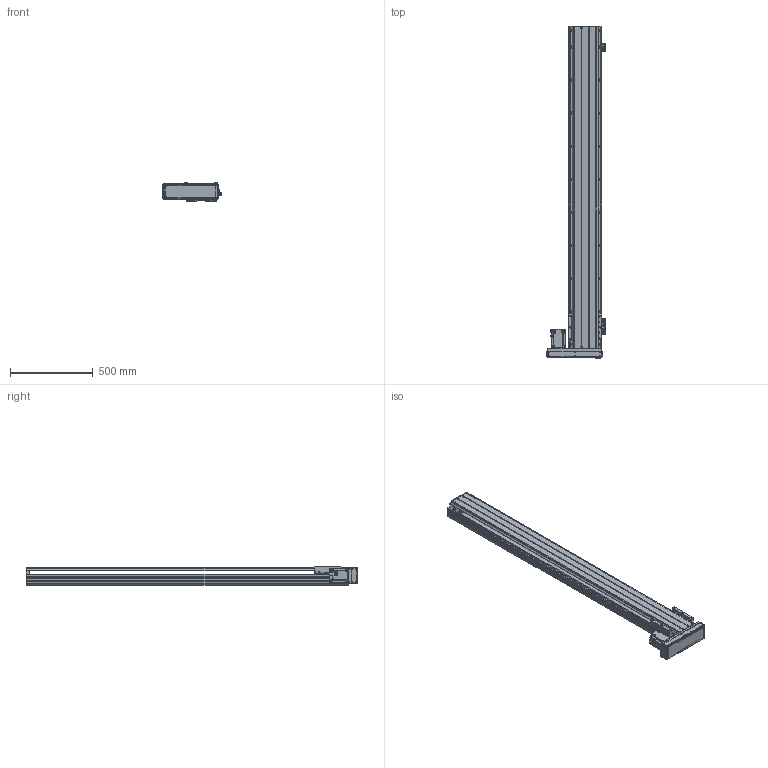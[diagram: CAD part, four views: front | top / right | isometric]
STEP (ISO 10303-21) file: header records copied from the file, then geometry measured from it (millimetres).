
FILE_DESCRIPTION(/* description */ ('MANUFACTURE'),/* implementation_level */ '2;1');
FILE_NAME(/* name */ '\\192.168.0.160\disk1\HAN SHIN Master\B-설계부문\C-표준\B-2024년\BC02-표준도면\+로봇 개선표준도면\홈페이지 표준 도면\홈페이지 최종 작업 폴더\3D\HR\HR200\HG200병렬\좌병렬\HG200-L70-N-1700-R10.stp',/* time_stamp */ '2025-01-18T11:08:00+09:00',/* author */ ('user'),/* organization */ (''),/* preprocessor_version */ 'ST-DEVELOPER v18.1',/* originating_system */ 'Autodesk Inventor 2022',/* authorisation */ 'LIP');
FILE_SCHEMA (('AUTOMOTIVE_DESIGN { 1 0 10303 214 3 1 1 }'));
Products named in the file (20): HG200-L70-N-0500-R10; HR200 S BASE-개선; HR180 FRONT BLOCK; HR180 FRONT BLOCK_1; HR200 FRONT COVER; HR120 STOPPER; HR200 SENSOR DOG; HR200 S UPCOVER; HR200 TABLE (W,N); 750W MOTOR PLATE; HG200 750W LR MOTOR PLATE-사출; hg-kr73_; 화살표; HR160 400W LR BELT COVER; HR200 ACRYL COVER -1; HR200 ACRYL COVER -1_1; HR200 ACRYL COVER -1_2; HG200 BOTTOM COVER; SENSOR BRK(EE-SX674A); EE_SX674A
Assembly tree (26 placements, depth 2):
  HG200-L70-N-0500-R10
    HR200 S BASE-개선
    HR180 FRONT BLOCK
    HR180 FRONT BLOCK_1
    HR200 FRONT COVER
    HR120 STOPPER  x2
    HR200 SENSOR DOG
    SENSOR BRK(EE-SX674A)  x3
    EE_SX674A  x3
    HR200 S UPCOVER
    HR200 TABLE (W,N)
    750W MOTOR PLATE
    HG200 750W LR MOTOR PLATE-사출
    hg-kr73_
    화살표  x2
    HR160 400W LR BELT COVER
    HR200 ACRYL COVER -1
    HR200 ACRYL COVER -1_1
    HR200 ACRYL COVER -1_2  x2
    HG200 BOTTOM COVER
Bounding box: 351 x 2008 x 109 mm (x, y, z)
Volume: 11916414.5 mm3; surface area: 3239307.5 mm2
Topology: 26 solids, 26 shells, 3390 faces, 9601 edges, 6347 vertices
Faces by surface type: plane 2494, cylinder 762, cone 130, sphere 4
Full cylindrical faces by diameter (mm): 2.459 x50, 3 x10, 3.242 x18, 3.4 x20, 3.5 x6, 4 x6, 4.134 x10, 4.5 x14, 4.917 x30, 5 x20, 5.5 x5, 5.9 x4, 6 x6, 6.6 x28, 6.647 x32, 7 x4, 7.6 x4, 8 x4, 9 x34, 9.5 x1, 11 x28, 14 x22, 19 x1, 25 x1, 27 x1, 30 x1, 32 x1, 38 x1, 42 x2, 44.5 x1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
Entity records: 106292 total; most frequent: CARTESIAN_POINT 20540, ORIENTED_EDGE 17922, DIRECTION 16655, EDGE_CURVE 8961, LINE 7297, VECTOR 7297, VERTEX_POINT 5983, AXIS2_PLACEMENT_3D 4679
